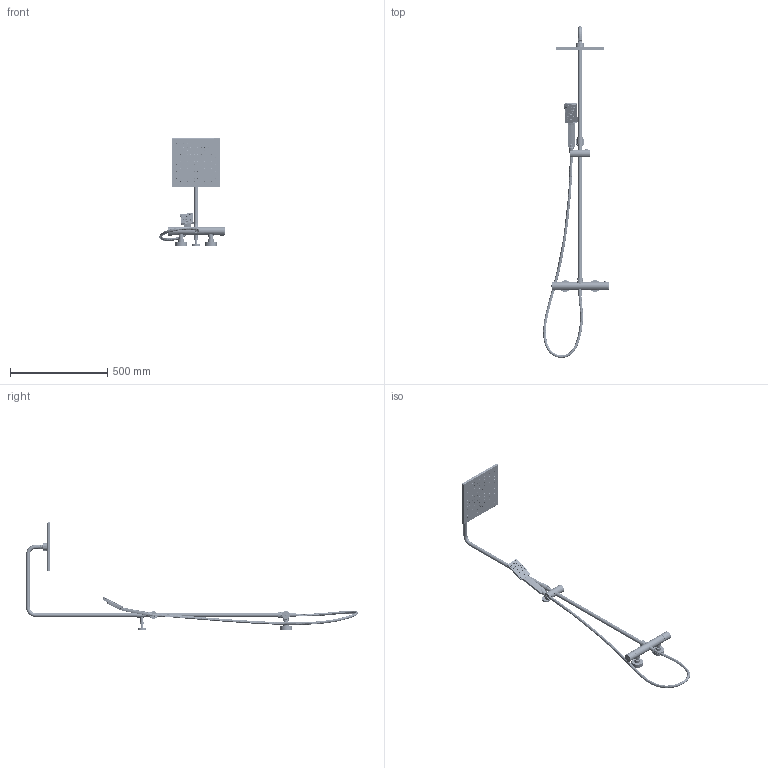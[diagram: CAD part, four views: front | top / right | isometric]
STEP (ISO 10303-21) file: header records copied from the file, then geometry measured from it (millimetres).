
FILE_DESCRIPTION (( 'STEP AP203' ), '1' );
FILE_NAME ('SYSY11N6CR_stp.stp', '2022-11-08T08:01:09', ( '' ), ( '' ), 'SwSTEP 2.0', 'SolidWorks 2022', '' );
FILE_SCHEMA (( 'CONFIG_CONTROL_DESIGN' ));
Length unit declared in the file: millimetre
Products named in the file (34): !SYSONTARIOCR-23.stp.stp; !SYSONTARIOCR-5.stp.stp; !SYSONTARIOCR-21.stp.stp; !SYSONTARIOCR-7.stp.stp; !SYSONTARIOCR-9.stp.stp; JIMJIM-RGR.stp.stp; !SYSONTARIOCR-15.stp.stp; !SYSONTARIOCR-8.stp.stp; !SYSONTARIOCR-0.stp.stp; !SYSONTARIOCR-12.stp.stp; !SYSONTARIOCR-19.stp.stp; !SYSONTARIOCR-22.stp.stp; !SYSONTARIOCR-26.stp.stp; !SYSONTARIOCR-2.stp.stp; !SYSONTARIOCR-3.stp.stp; !SYSONTARIOCR-1.stp.stp; !SYSONTARIOCR-14.stp.stp; 5908223787508_stp.stp; !SYSONTARIOCR-13.stp.stp; !SYSONTARIOCR-17.stp.stp; !SYSONTARIOCR-28.stp.stp; waz v1.stp.stp; !SYSONTARIOCR.stp.stp; !SYSONTARIOCR-18.stp.stp; !SYSONTARIOCR-11.stp.stp; !SYSONTARIOCR-10.stp.stp; !SYSONTARIOCR-25.stp.stp; SYSY11N6CR_stp; !SYSONTARIOCR-20.stp.stp; !SYSONTARIOCR-24.stp.stp; !SYSONTARIOCR-27.stp.stp; !SYSONTARIOCR-6.stp.stp; !SYSONTARIOCR-16.stp.stp; !SYSONTARIOCR-4.stp.stp
Assembly tree (33 placements, depth 2):
  SYSY11N6CR_stp
    waz v1.stp.stp
    !SYSONTARIOCR.stp.stp
    !SYSONTARIOCR-0.stp.stp
    !SYSONTARIOCR-1.stp.stp
    !SYSONTARIOCR-2.stp.stp
    !SYSONTARIOCR-3.stp.stp
    !SYSONTARIOCR-4.stp.stp
    !SYSONTARIOCR-5.stp.stp
    !SYSONTARIOCR-6.stp.stp
    !SYSONTARIOCR-7.stp.stp
    !SYSONTARIOCR-8.stp.stp
    !SYSONTARIOCR-9.stp.stp
    !SYSONTARIOCR-10.stp.stp
    !SYSONTARIOCR-11.stp.stp
    !SYSONTARIOCR-12.stp.stp
    !SYSONTARIOCR-13.stp.stp
    !SYSONTARIOCR-14.stp.stp
    !SYSONTARIOCR-15.stp.stp
    !SYSONTARIOCR-16.stp.stp
    !SYSONTARIOCR-17.stp.stp
    !SYSONTARIOCR-18.stp.stp
    !SYSONTARIOCR-19.stp.stp
    !SYSONTARIOCR-20.stp.stp
    !SYSONTARIOCR-21.stp.stp
    !SYSONTARIOCR-22.stp.stp
    !SYSONTARIOCR-23.stp.stp
    !SYSONTARIOCR-24.stp.stp
    !SYSONTARIOCR-25.stp.stp
    !SYSONTARIOCR-26.stp.stp
    !SYSONTARIOCR-27.stp.stp
    !SYSONTARIOCR-28.stp.stp
    JIMJIM-RGR.stp.stp
    5908223787508_stp.stp
Bounding box: 336.74 x 1702.26 x 549.17 mm (x, y, z)
Volume: 2184952.8 mm3; surface area: 632855.7 mm2
Topology: 188 solids, 188 shells, 9295 faces, 21741 edges, 13336 vertices
Faces by surface type: cylinder 3204, plane 2462, bspline 1757, cone 994, torus 822, sphere 56
Entity records: 359136 total; most frequent: CARTESIAN_POINT 155985, ORIENTED_EDGE 43440, DIRECTION 39170, EDGE_CURVE 21720, AXIS2_PLACEMENT_3D 15352, VERTEX_POINT 13337, EDGE_LOOP 10433, FACE_OUTER_BOUND 9295
